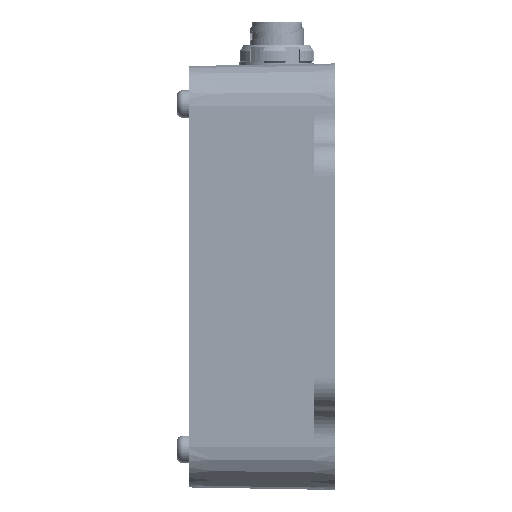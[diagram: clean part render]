
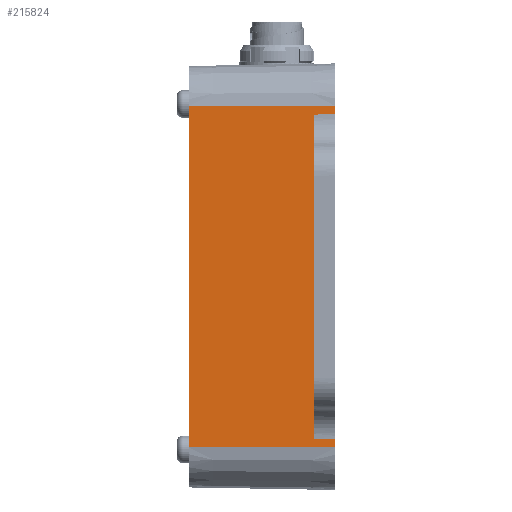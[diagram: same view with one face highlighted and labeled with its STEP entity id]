
A CAD part, left-side view. The second image highlights one B-rep face of the part: STEP entity #215824.
In plain terms, the highlighted planar face has unit normal (-1, 0.018, 0).
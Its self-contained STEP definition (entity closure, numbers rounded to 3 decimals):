
#5938 = DIRECTION ( 'NONE',  ( 0.017, 1., 0. ) ) ;
#6525 = VECTOR ( 'NONE', #178380, 1000. ) ;
#8668 = CARTESIAN_POINT ( 'NONE',  ( -33.5, -4., 0. ) ) ;
#10791 = VECTOR ( 'NONE', #99253, 1000. ) ;
#20687 = CARTESIAN_POINT ( 'NONE',  ( -33.5, -4., 0. ) ) ;
#22165 = DIRECTION ( 'NONE',  ( 0., 0., -1. ) ) ;
#25686 = VECTOR ( 'NONE', #194638, 1000. ) ;
#29855 = VECTOR ( 'NONE', #216367, 1000. ) ;
#31097 = CARTESIAN_POINT ( 'NONE',  ( -33.43, 0., 0. ) ) ;
#36882 = EDGE_CURVE ( 'NONE', #263661, #193115, #178750, .T. ) ;
#37227 = ORIENTED_EDGE ( 'NONE', *, *, #293057, .T. ) ;
#42458 = VERTEX_POINT ( 'NONE', #123634 ) ;
#52382 = ORIENTED_EDGE ( 'NONE', *, *, #36882, .T. ) ;
#56367 = LINE ( 'NONE', #237371, #200987 ) ;
#69256 = CARTESIAN_POINT ( 'NONE',  ( -33.02, 23.5, -32. ) ) ;
#71164 = LINE ( 'NONE', #8668, #10791 ) ;
#84960 = LINE ( 'NONE', #246546, #6525 ) ;
#96447 = EDGE_CURVE ( 'NONE', #193115, #185375, #145352, .T. ) ;
#99250 = CARTESIAN_POINT ( 'NONE',  ( -33.5, -4., -30.478 ) ) ;
#99253 = DIRECTION ( 'NONE',  ( 0., 0., -1. ) ) ;
#100309 = VECTOR ( 'NONE', #243977, 1000. ) ;
#104137 = EDGE_LOOP ( 'NONE', ( #204730, #52382, #151802, #161140, #112138, #210226, #37227, #207140 ) ) ;
#112138 = ORIENTED_EDGE ( 'NONE', *, *, #239505, .F. ) ;
#117064 = VECTOR ( 'NONE', #123092, 1000. ) ;
#120320 = VECTOR ( 'NONE', #22165, 1000. ) ;
#120963 = DIRECTION ( 'NONE',  ( -0.017, -1., 0. ) ) ;
#123092 = DIRECTION ( 'NONE',  ( 0., 0., 1. ) ) ;
#123634 = CARTESIAN_POINT ( 'NONE',  ( -33.02, 23.5, 32. ) ) ;
#126326 = LINE ( 'NONE', #216836, #25686 ) ;
#145352 = LINE ( 'NONE', #31097, #117064 ) ;
#146526 = CARTESIAN_POINT ( 'NONE',  ( -33.43, 0., -30.408 ) ) ;
#151802 = ORIENTED_EDGE ( 'NONE', *, *, #96447, .T. ) ;
#161140 = ORIENTED_EDGE ( 'NONE', *, *, #168994, .T. ) ;
#161855 = AXIS2_PLACEMENT_3D ( 'NONE', #239528, #215841, #120963 ) ;
#168413 = PLANE ( 'NONE',  #161855 ) ;
#168994 = EDGE_CURVE ( 'NONE', #185375, #183337, #84960, .T. ) ;
#171878 = CARTESIAN_POINT ( 'NONE',  ( -33.5, -4., 32. ) ) ;
#172867 = CARTESIAN_POINT ( 'NONE',  ( -33.429, 0.096, -30.406 ) ) ;
#178099 = LINE ( 'NONE', #20687, #120320 ) ;
#178380 = DIRECTION ( 'NONE',  ( -0.017, -1., 0.017 ) ) ;
#178750 = LINE ( 'NONE', #172867, #100309 ) ;
#183337 = VERTEX_POINT ( 'NONE', #273049 ) ;
#185375 = VERTEX_POINT ( 'NONE', #195745 ) ;
#188261 = CARTESIAN_POINT ( 'NONE',  ( -33.5, -4., -32. ) ) ;
#189482 = EDGE_CURVE ( 'NONE', #263661, #245221, #71164, .T. ) ;
#189634 = EDGE_CURVE ( 'NONE', #247360, #42458, #263855, .T. ) ;
#193115 = VERTEX_POINT ( 'NONE', #146526 ) ;
#194638 = DIRECTION ( 'NONE',  ( 0., 0., -1. ) ) ;
#194700 = EDGE_CURVE ( 'NONE', #245221, #291155, #56367, .T. ) ;
#195745 = CARTESIAN_POINT ( 'NONE',  ( -33.43, 0., 30.408 ) ) ;
#200987 = VECTOR ( 'NONE', #5938, 1000. ) ;
#204730 = ORIENTED_EDGE ( 'NONE', *, *, #189482, .F. ) ;
#206181 = CARTESIAN_POINT ( 'NONE',  ( -33.5, -4., 32. ) ) ;
#207140 = ORIENTED_EDGE ( 'NONE', *, *, #194700, .F. ) ;
#210226 = ORIENTED_EDGE ( 'NONE', *, *, #189634, .T. ) ;
#215824 = ADVANCED_FACE ( 'NONE', ( #258947 ), #168413, .T. ) ;
#215841 = DIRECTION ( 'NONE',  ( -1., 0.017, 0. ) ) ;
#216367 = DIRECTION ( 'NONE',  ( 0.017, 1., 0. ) ) ;
#216836 = CARTESIAN_POINT ( 'NONE',  ( -33.02, 23.5, 0. ) ) ;
#237371 = CARTESIAN_POINT ( 'NONE',  ( -33.498, -3.86, -32. ) ) ;
#239505 = EDGE_CURVE ( 'NONE', #247360, #183337, #178099, .T. ) ;
#239528 = CARTESIAN_POINT ( 'NONE',  ( -33.5, -4., 0. ) ) ;
#243977 = DIRECTION ( 'NONE',  ( 0.017, 1., 0.017 ) ) ;
#245221 = VERTEX_POINT ( 'NONE', #188261 ) ;
#246546 = CARTESIAN_POINT ( 'NONE',  ( -33.498, -3.904, 30.476 ) ) ;
#247360 = VERTEX_POINT ( 'NONE', #206181 ) ;
#258947 = FACE_OUTER_BOUND ( 'NONE', #104137, .T. ) ;
#263661 = VERTEX_POINT ( 'NONE', #99250 ) ;
#263855 = LINE ( 'NONE', #171878, #29855 ) ;
#273049 = CARTESIAN_POINT ( 'NONE',  ( -33.5, -4., 30.478 ) ) ;
#291155 = VERTEX_POINT ( 'NONE', #69256 ) ;
#293057 = EDGE_CURVE ( 'NONE', #42458, #291155, #126326, .T. ) ;
